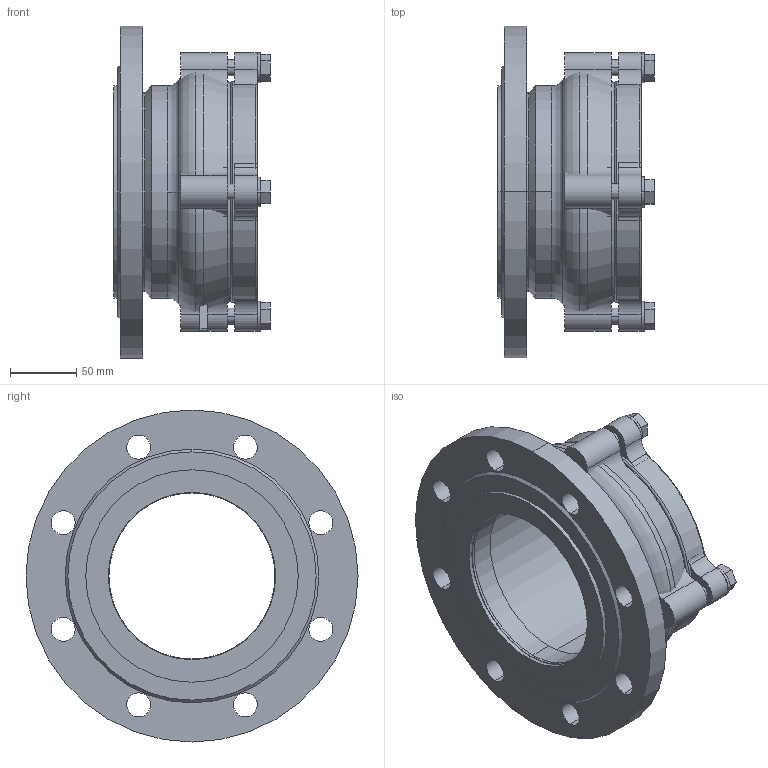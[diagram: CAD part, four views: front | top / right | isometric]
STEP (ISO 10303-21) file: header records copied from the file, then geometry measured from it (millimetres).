
FILE_DESCRIPTION(('STEP AP214'),'1');
FILE_NAME('U:/VDI-Daten/7200-(0400)/7200_PN16_DN125_140.STP','2012-06-15T09:50:55',(' '),(' '),'Spatial InterOp 3D',' ',' ');
FILE_SCHEMA(('automotive_design'));
Length unit declared in the file: millimetre
Products named in the file (27): 3D-Objekt
Bounding box: 118 x 250 x 250 mm (x, y, z)
Volume: 1436977.4 mm3; surface area: 393150.1 mm2
Topology: 27 solids, 27 shells, 211 faces, 464 edges, 308 vertices
Faces by surface type: plane 98, cylinder 95, torus 12, cone 6
Entity records: 8267 total; most frequent: DIRECTION 1174, CARTESIAN_POINT 1010, ORIENTED_EDGE 928, AXIS2_PLACEMENT_3D 472, EDGE_CURVE 464, VERTEX_POINT 308, EDGE_LOOP 240, STYLED_ITEM 238
